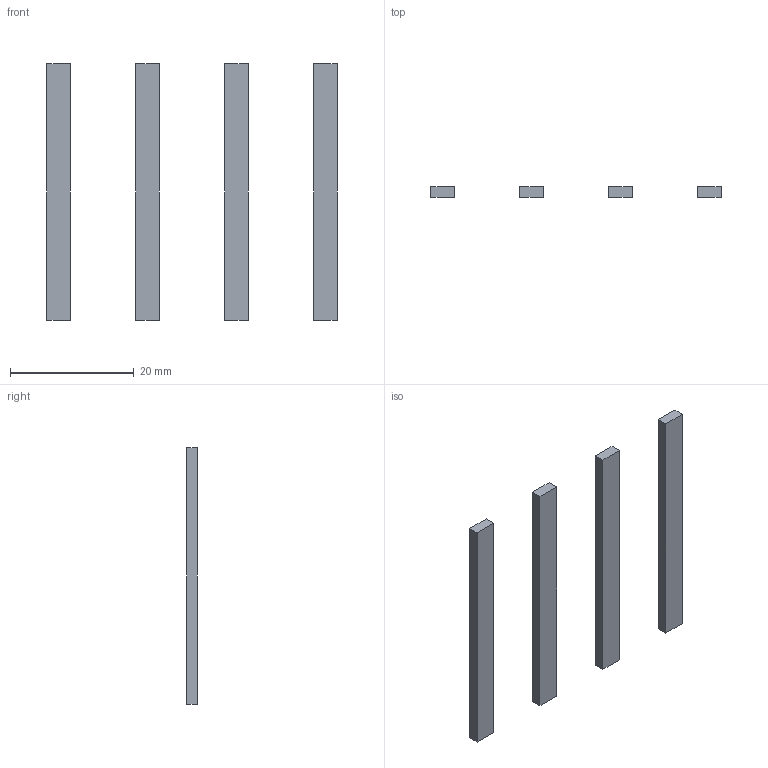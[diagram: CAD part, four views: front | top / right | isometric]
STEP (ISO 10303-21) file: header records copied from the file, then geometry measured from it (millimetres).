
FILE_DESCRIPTION(('Open CASCADE Model'),'2;1');
FILE_NAME('Open CASCADE Shape Model','2026-10-16T03:37:36',('Author'),( 'Open CASCADE'),'Open CASCADE STEP processor 7.9','Open CASCADE 7.9' ,'Unknown');
FILE_SCHEMA(('AUTOMOTIVE_DESIGN { 1 0 10303 214 1 1 1 1 }'));
Length unit declared in the file: millimetre
Products named in the file (5): Open CASCADE STEP translator 7.9 11; Open CASCADE STEP translator 7.9 11.1; Open CASCADE STEP translator 7.9 11.2; Open CASCADE STEP translator 7.9 11.3; Open CASCADE STEP translator 7.9 11.4
Assembly tree (4 placements, depth 2):
  Open CASCADE STEP translator 7.9 11
    Open CASCADE STEP translator 7.9 11.1
    Open CASCADE STEP translator 7.9 11.2
    Open CASCADE STEP translator 7.9 11.3
    Open CASCADE STEP translator 7.9 11.4
Bounding box: 47 x 1.7 x 41.5 mm (x, y, z)
Volume: 1072.4 mm3; surface area: 1877.7 mm2
Topology: 4 solids, 4 shells, 24 faces, 48 edges, 32 vertices
Faces by surface type: plane 24
Entity records: 1312 total; most frequent: CARTESIAN_POINT 205, DIRECTION 202, LINE 144, VECTOR 144, ORIENTED_EDGE 96, PCURVE 96, DEFINITIONAL_REPRESENTATION 96, EDGE_CURVE 48
